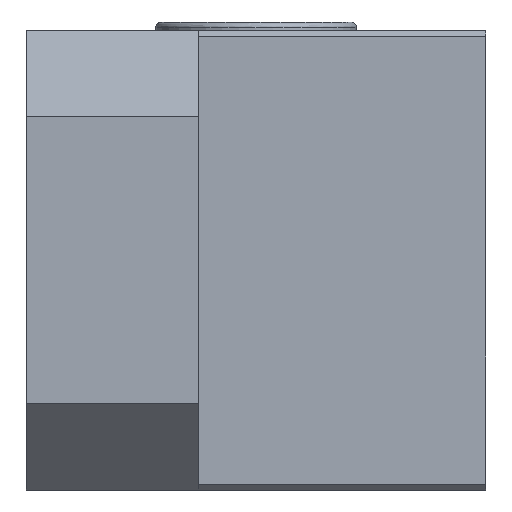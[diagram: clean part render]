
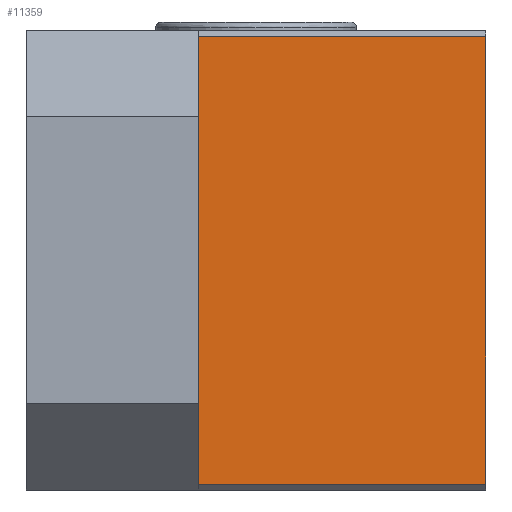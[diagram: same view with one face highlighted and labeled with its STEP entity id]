
A CAD part, left-side view. The second image highlights one B-rep face of the part: STEP entity #11359.
In plain terms, the highlighted planar face has unit normal (-1, 0, 0).
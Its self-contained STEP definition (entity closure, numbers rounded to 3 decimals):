
#64 = EDGE_CURVE ( 'NONE', #11720, #10363, #576, .T. ) ;
#386 = AXIS2_PLACEMENT_3D ( 'NONE', #4266, #3393, #7054 ) ;
#576 = LINE ( 'NONE', #8728, #2400 ) ;
#1571 = VERTEX_POINT ( 'NONE', #7587 ) ;
#2343 = CARTESIAN_POINT ( 'NONE',  ( 22.53, 27.702, 7.8 ) ) ;
#2400 = VECTOR ( 'NONE', #4227, 1000. ) ;
#2465 = EDGE_LOOP ( 'NONE', ( #8811, #9388, #2992, #3852 ) ) ;
#2506 = PLANE ( 'NONE',  #386 ) ;
#2652 = VECTOR ( 'NONE', #5534, 1000. ) ;
#2872 = EDGE_CURVE ( 'NONE', #6652, #10363, #11079, .T. ) ;
#2992 = ORIENTED_EDGE ( 'NONE', *, *, #7406, .T. ) ;
#3393 = DIRECTION ( 'NONE',  ( 1., 0., 0. ) ) ;
#3689 = CARTESIAN_POINT ( 'NONE',  ( 22.53, 17.702, -7.8 ) ) ;
#3852 = ORIENTED_EDGE ( 'NONE', *, *, #64, .T. ) ;
#4179 = DIRECTION ( 'NONE',  ( 0., 0., 1. ) ) ;
#4227 = DIRECTION ( 'NONE',  ( 0., 0., -1. ) ) ;
#4266 = CARTESIAN_POINT ( 'NONE',  ( 22.53, 17.702, 7.8 ) ) ;
#4284 = CARTESIAN_POINT ( 'NONE',  ( 22.53, 22.702, 7.8 ) ) ;
#5219 = LINE ( 'NONE', #8748, #6895 ) ;
#5534 = DIRECTION ( 'NONE',  ( 0., 1., 0. ) ) ;
#6652 = VERTEX_POINT ( 'NONE', #3689 ) ;
#6895 = VECTOR ( 'NONE', #4179, 1000. ) ;
#7054 = DIRECTION ( 'NONE',  ( 0., 0., -1. ) ) ;
#7091 = CARTESIAN_POINT ( 'NONE',  ( 22.53, 27.702, -7.8 ) ) ;
#7095 = VECTOR ( 'NONE', #7958, 1000. ) ;
#7406 = EDGE_CURVE ( 'NONE', #1571, #11720, #11526, .T. ) ;
#7587 = CARTESIAN_POINT ( 'NONE',  ( 22.53, 17.702, 7.8 ) ) ;
#7958 = DIRECTION ( 'NONE',  ( 0., 1., 0. ) ) ;
#8039 = EDGE_CURVE ( 'NONE', #6652, #1571, #5219, .T. ) ;
#8728 = CARTESIAN_POINT ( 'NONE',  ( 22.53, 27.702, 0. ) ) ;
#8748 = CARTESIAN_POINT ( 'NONE',  ( 22.53, 17.702, 0. ) ) ;
#8811 = ORIENTED_EDGE ( 'NONE', *, *, #2872, .F. ) ;
#9388 = ORIENTED_EDGE ( 'NONE', *, *, #8039, .T. ) ;
#10172 = CARTESIAN_POINT ( 'NONE',  ( 22.53, 22.702, -7.8 ) ) ;
#10363 = VERTEX_POINT ( 'NONE', #7091 ) ;
#11079 = LINE ( 'NONE', #10172, #2652 ) ;
#11359 = ADVANCED_FACE ( 'NONE', ( #11617 ), #2506, .F. ) ;
#11526 = LINE ( 'NONE', #4284, #7095 ) ;
#11617 = FACE_OUTER_BOUND ( 'NONE', #2465, .T. ) ;
#11720 = VERTEX_POINT ( 'NONE', #2343 ) ;
